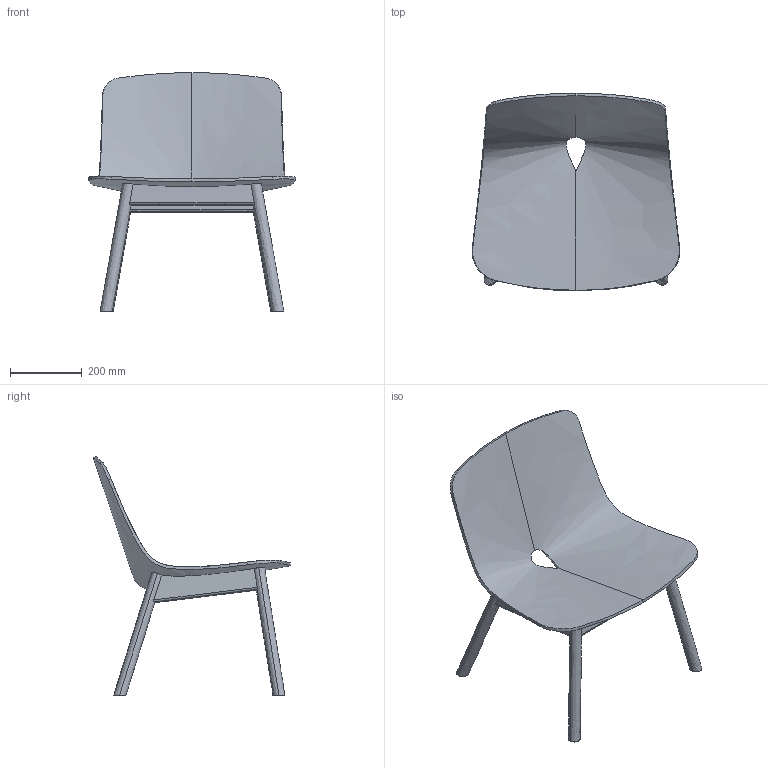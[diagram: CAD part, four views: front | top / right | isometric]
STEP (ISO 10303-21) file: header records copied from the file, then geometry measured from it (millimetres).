
FILE_DESCRIPTION(/* description */ (''),/* implementation_level */ '2;1');
FILE_NAME(/* name */ 'Mono lounge chair',/* time_stamp */ '2019-09-17T09:00:50+02:00',/* author */ (''),/* organization */ (''),/* preprocessor_version */ 'ST-DEVELOPER v15',/* originating_system */ '',/* authorisation */ '');
FILE_SCHEMA (('AUTOMOTIVE_DESIGN'));
Length unit declared in the file: millimetre
Products named in the file (1): Document
Bounding box: 579.96 x 551.93 x 666.71 mm (x, y, z)
Volume: 5778208.4 mm3; surface area: 1154293.5 mm2
Topology: 9 solids, 9 shells, 68 faces, 153 edges, 101 vertices
Faces by surface type: bspline 50, plane 18
Entity records: 21365 total; most frequent: CARTESIAN_POINT 20263, ORIENTED_EDGE 304, EDGE_CURVE 152, B_SPLINE_CURVE_WITH_KNOTS 131, VERTEX_POINT 100, ADVANCED_FACE 68, FACE_OUTER_BOUND 68, EDGE_LOOP 68
